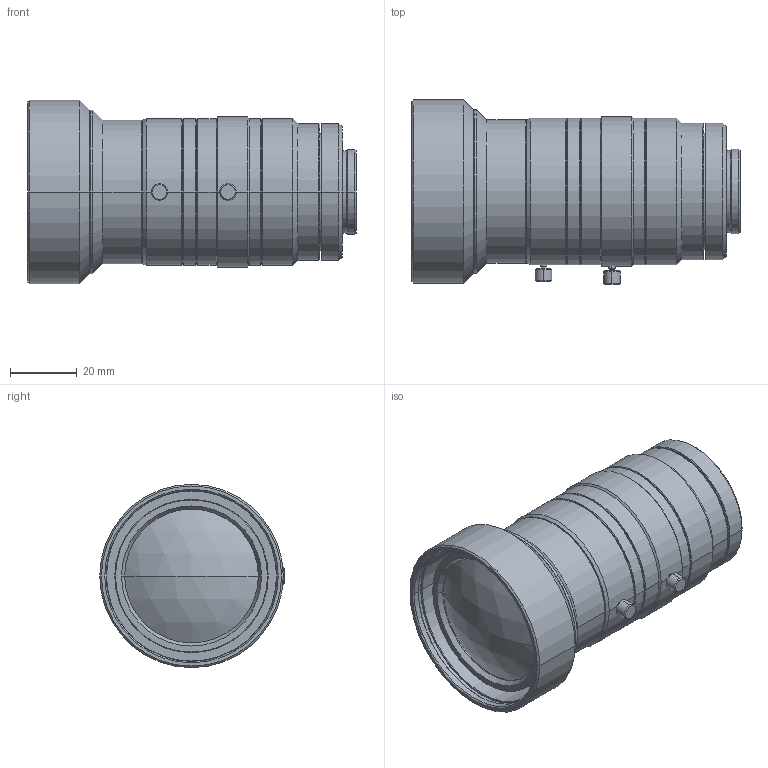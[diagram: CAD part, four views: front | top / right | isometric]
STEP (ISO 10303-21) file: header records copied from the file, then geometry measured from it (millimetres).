
FILE_DESCRIPTION (( 'STEP AP214' ), '1' );
FILE_NAME ('VS-H1218-IRC_11.STEP', '2018-06-25T08:11:38', ( '' ), ( '' ), 'SwSTEP 2.0', 'SolidWorks 2018', '' );
FILE_SCHEMA (( 'AUTOMOTIVE_DESIGN' ));
Length unit declared in the file: millimetre
Products named in the file (1): VS-H1218-IRC_11
Bounding box: 98.47 x 55.3 x 55 mm (x, y, z)
Volume: 142402.7 mm3; surface area: 25129.8 mm2
Topology: 3 solids, 3 shells, 172 faces, 338 edges, 195 vertices
Faces by surface type: cone 88, cylinder 54, plane 28, sphere 2
Entity records: 4442 total; most frequent: DIRECTION 880, CARTESIAN_POINT 706, ORIENTED_EDGE 676, AXIS2_PLACEMENT_3D 369, EDGE_CURVE 338, CIRCLE 196, VERTEX_POINT 195, EDGE_LOOP 195
